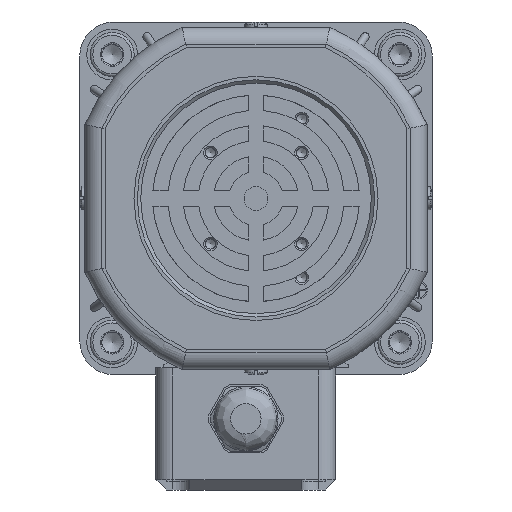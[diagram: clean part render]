
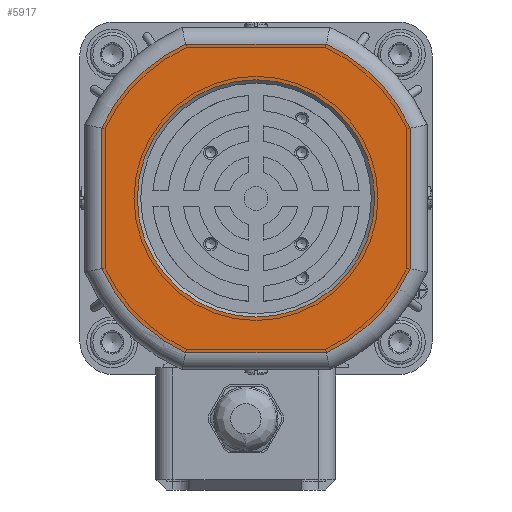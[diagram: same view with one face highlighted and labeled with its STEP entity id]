
A CAD part, left-side view. The second image highlights one B-rep face of the part: STEP entity #5917.
In plain terms, the highlighted planar face has unit normal (-1, 0, 0).
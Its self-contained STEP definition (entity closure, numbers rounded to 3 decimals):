
#643=LINE('',#31401,#1813);
#644=LINE('',#31417,#1814);
#647=LINE('',#31469,#1817);
#648=LINE('',#31485,#1818);
#1813=VECTOR('',#25370,1.);
#1814=VECTOR('',#25373,1.);
#1817=VECTOR('',#25390,1.);
#1818=VECTOR('',#25393,1.);
#3029=PLANE('',#23152);
#5917=ADVANCED_FACE('',(#7373,#7374),#3029,.F.);
#7373=FACE_BOUND('',#8266,.T.);
#7374=FACE_BOUND('',#8267,.T.);
#8266=EDGE_LOOP('',(#10507));
#8267=EDGE_LOOP('',(#10508,#10509,#10510,#10511,#10512,#10513,#10514,#10515));
#10507=ORIENTED_EDGE('',*,*,#18384,.T.);
#10508=ORIENTED_EDGE('',*,*,#18394,.T.);
#10509=ORIENTED_EDGE('',*,*,#18389,.T.);
#10510=ORIENTED_EDGE('',*,*,#18396,.T.);
#10511=ORIENTED_EDGE('',*,*,#18402,.T.);
#10512=ORIENTED_EDGE('',*,*,#18408,.T.);
#10513=ORIENTED_EDGE('',*,*,#18410,.T.);
#10514=ORIENTED_EDGE('',*,*,#18406,.T.);
#10515=ORIENTED_EDGE('',*,*,#18400,.T.);
#16210=VERTEX_POINT('',#31346);
#16215=VERTEX_POINT('',#31368);
#16216=VERTEX_POINT('',#31370);
#16218=VERTEX_POINT('',#31398);
#16221=VERTEX_POINT('',#31416);
#16222=VERTEX_POINT('',#31432);
#16225=VERTEX_POINT('',#31450);
#16226=VERTEX_POINT('',#31466);
#16229=VERTEX_POINT('',#31484);
#18384=EDGE_CURVE('',#16210,#16210,#21726,.T.);
#18389=EDGE_CURVE('',#16216,#16215,#21730,.T.);
#18394=EDGE_CURVE('',#16218,#16216,#643,.T.);
#18396=EDGE_CURVE('',#16215,#16221,#644,.T.);
#18400=EDGE_CURVE('',#16222,#16218,#21733,.T.);
#18402=EDGE_CURVE('',#16221,#16225,#21734,.T.);
#18406=EDGE_CURVE('',#16226,#16222,#647,.T.);
#18408=EDGE_CURVE('',#16225,#16229,#648,.T.);
#18410=EDGE_CURVE('',#16229,#16226,#21736,.T.);
#21726=CIRCLE('',#22890,35.);
#21730=CIRCLE('',#22896,50.);
#21733=CIRCLE('',#22902,50.);
#21734=CIRCLE('',#22904,50.);
#21736=CIRCLE('',#22909,50.);
#22890=AXIS2_PLACEMENT_3D('',#31345,#25351,#25352);
#22896=AXIS2_PLACEMENT_3D('',#31369,#25363,#25364);
#22902=AXIS2_PLACEMENT_3D('',#31435,#25379,#25380);
#22904=AXIS2_PLACEMENT_3D('',#31451,#25383,#25384);
#22909=AXIS2_PLACEMENT_3D('',#31488,#25397,#25398);
#23152=AXIS2_PLACEMENT_3D('',#32237,#26075,#26076);
#25351=DIRECTION('',(1.,0.,0.));
#25352=DIRECTION('',(0.,-1.,0.));
#25363=DIRECTION('',(-1.,0.,0.));
#25364=DIRECTION('',(0.,0.,1.));
#25370=DIRECTION('',(0.,-1.,0.));
#25373=DIRECTION('',(0.,0.,1.));
#25379=DIRECTION('',(-1.,0.,0.));
#25380=DIRECTION('',(0.,0.,1.));
#25383=DIRECTION('',(-1.,0.,0.));
#25384=DIRECTION('',(0.,0.,1.));
#25390=DIRECTION('',(0.,0.,-1.));
#25393=DIRECTION('',(0.,1.,0.));
#25397=DIRECTION('',(-1.,0.,0.));
#25398=DIRECTION('',(0.,0.,1.));
#26075=DIRECTION('',(1.,0.,0.));
#26076=DIRECTION('',(0.,0.,1.));
#31345=CARTESIAN_POINT('',(-256.374,-1.839,0.));
#31346=CARTESIAN_POINT('',(-256.374,-36.839,0.));
#31368=CARTESIAN_POINT('',(-256.374,-47.339,-20.73));
#31369=CARTESIAN_POINT('',(-256.374,-1.839,0.));
#31370=CARTESIAN_POINT('',(-256.374,-22.569,-45.5));
#31398=CARTESIAN_POINT('',(-256.374,18.891,-45.5));
#31401=CARTESIAN_POINT('',(-256.374,-23.628,-45.5));
#31416=CARTESIAN_POINT('',(-256.374,-47.339,20.73));
#31417=CARTESIAN_POINT('',(-256.374,-47.339,21.789));
#31432=CARTESIAN_POINT('',(-256.374,43.661,-20.73));
#31435=CARTESIAN_POINT('',(-256.374,-1.839,0.));
#31450=CARTESIAN_POINT('',(-256.374,-22.569,45.5));
#31451=CARTESIAN_POINT('',(-256.374,-1.839,0.));
#31466=CARTESIAN_POINT('',(-256.374,43.661,20.73));
#31469=CARTESIAN_POINT('',(-256.374,43.661,-21.789));
#31484=CARTESIAN_POINT('',(-256.374,18.891,45.5));
#31485=CARTESIAN_POINT('',(-256.374,19.95,45.5));
#31488=CARTESIAN_POINT('',(-256.374,-1.839,0.));
#32237=CARTESIAN_POINT('',(-256.374,-1.839,0.));
